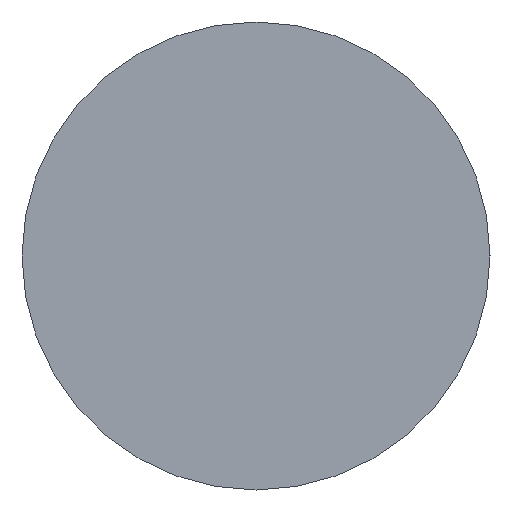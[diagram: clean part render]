
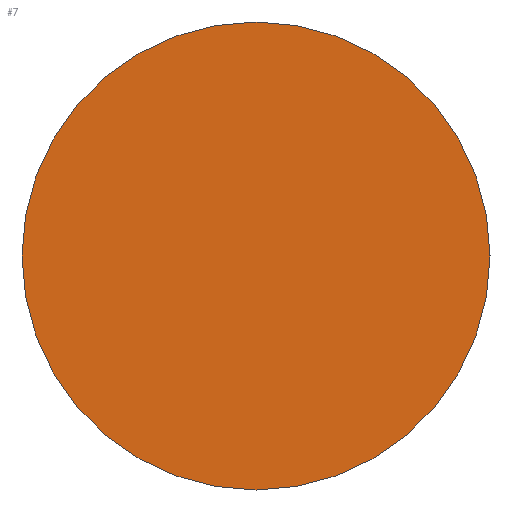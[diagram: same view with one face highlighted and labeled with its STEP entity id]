
A CAD part, left-side view. The second image highlights one B-rep face of the part: STEP entity #7.
In plain terms, the highlighted planar face has unit normal (-1, 0, 0).
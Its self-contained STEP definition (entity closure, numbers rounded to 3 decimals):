
#7 = ADVANCED_FACE ( 'NONE', ( #127 ), #184, .T. ) ;
#11 = AXIS2_PLACEMENT_3D ( 'NONE', #73, #134, #213 ) ;
#24 = CARTESIAN_POINT ( 'NONE',  ( 0., 0., 0. ) ) ;
#39 = AXIS2_PLACEMENT_3D ( 'NONE', #24, #177, #145 ) ;
#41 = VERTEX_POINT ( 'NONE', #240 ) ;
#46 = EDGE_CURVE ( 'NONE', #41, #191, #236, .T. ) ;
#48 = EDGE_LOOP ( 'NONE', ( #67, #161 ) ) ;
#67 = ORIENTED_EDGE ( 'NONE', *, *, #112, .F. ) ;
#73 = CARTESIAN_POINT ( 'NONE',  ( 0., 0., 0. ) ) ;
#112 = EDGE_CURVE ( 'NONE', #191, #41, #212, .T. ) ;
#127 = FACE_OUTER_BOUND ( 'NONE', #48, .T. ) ;
#129 = AXIS2_PLACEMENT_3D ( 'NONE', #239, #193, #183 ) ;
#134 = DIRECTION ( 'NONE',  ( -1., 0., 0. ) ) ;
#145 = DIRECTION ( 'NONE',  ( 0., 1., 0. ) ) ;
#161 = ORIENTED_EDGE ( 'NONE', *, *, #46, .F. ) ;
#177 = DIRECTION ( 'NONE',  ( 1., 0., 0. ) ) ;
#183 = DIRECTION ( 'NONE',  ( 0., 1., 0. ) ) ;
#184 = PLANE ( 'NONE',  #11 ) ;
#191 = VERTEX_POINT ( 'NONE', #243 ) ;
#193 = DIRECTION ( 'NONE',  ( 1., 0., 0. ) ) ;
#212 = CIRCLE ( 'NONE', #39, 9. ) ;
#213 = DIRECTION ( 'NONE',  ( 0., -1., 0. ) ) ;
#236 = CIRCLE ( 'NONE', #129, 9. ) ;
#239 = CARTESIAN_POINT ( 'NONE',  ( 0., 0., 0. ) ) ;
#240 = CARTESIAN_POINT ( 'NONE',  ( 0., -9., 0. ) ) ;
#243 = CARTESIAN_POINT ( 'NONE',  ( 0., 9., 0. ) ) ;
